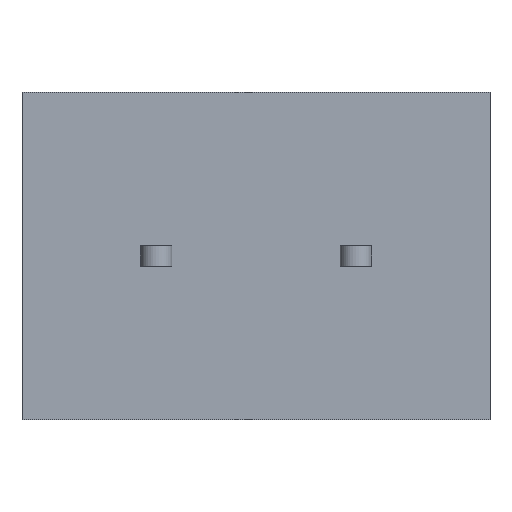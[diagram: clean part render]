
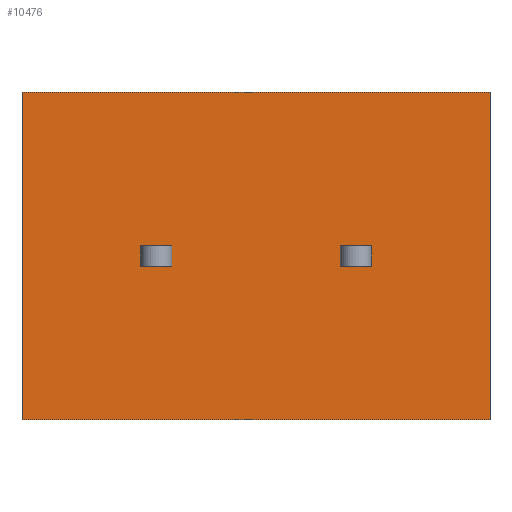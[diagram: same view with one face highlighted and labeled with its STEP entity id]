
A CAD part, front view. The second image highlights one B-rep face of the part: STEP entity #10476.
In plain terms, the highlighted planar face has unit normal (0, -1, 0).
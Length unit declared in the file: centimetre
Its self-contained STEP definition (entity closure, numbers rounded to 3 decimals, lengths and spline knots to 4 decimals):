
#716=VERTEX_POINT('',#13195);
#717=VERTEX_POINT('',#13196);
#720=VERTEX_POINT('',#13204);
#738=VERTEX_POINT('',#13253);
#1248=VERTEX_POINT('',#15308);
#1249=VERTEX_POINT('',#15310);
#1257=VERTEX_POINT('',#15343);
#1258=VERTEX_POINT('',#15344);
#1261=VERTEX_POINT('',#15352);
#1276=VERTEX_POINT('',#15396);
#1611=VERTEX_POINT('',#16897);
#1612=VERTEX_POINT('',#16899);
#1737=VECTOR('',#11164,1.);
#1741=VECTOR('',#11169,1.);
#1759=VECTOR('',#11209,1.);
#1761=VECTOR('',#11212,1.);
#2339=VECTOR('',#12123,1.);
#2355=VECTOR('',#12149,1.);
#2358=VECTOR('',#12155,1.);
#2376=VECTOR('',#12190,1.);
#2379=VECTOR('',#12198,1.);
#2777=VECTOR('',#12737,1.);
#2798=VECTOR('',#12769,1.);
#2799=VECTOR('',#12771,1.);
#2913=LINE('',#13194,#1737);
#2917=LINE('',#13203,#1741);
#2935=LINE('',#13252,#1759);
#2937=LINE('',#13256,#1761);
#3515=LINE('',#15309,#2339);
#3531=LINE('',#15342,#2355);
#3534=LINE('',#15351,#2358);
#3552=LINE('',#15395,#2376);
#3555=LINE('',#15403,#2379);
#3953=LINE('',#16898,#2777);
#3974=LINE('',#16941,#2798);
#3975=LINE('',#16943,#2799);
#4161=EDGE_CURVE('',#716,#717,#2913,.T.);
#4165=EDGE_CURVE('',#720,#716,#2917,.T.);
#4189=EDGE_CURVE('',#738,#720,#2935,.T.);
#4191=EDGE_CURVE('',#717,#738,#2937,.T.);
#4952=EDGE_CURVE('',#1249,#1248,#3515,.T.);
#4969=EDGE_CURVE('',#1257,#1258,#3531,.T.);
#4973=EDGE_CURVE('',#1258,#1261,#3534,.T.);
#4995=EDGE_CURVE('',#1261,#1276,#3552,.T.);
#4999=EDGE_CURVE('',#1276,#1257,#3555,.T.);
#5503=EDGE_CURVE('',#1612,#1611,#3953,.T.);
#5525=EDGE_CURVE('',#1248,#1612,#3974,.T.);
#5526=EDGE_CURVE('',#1249,#1611,#3975,.T.);
#8592=ORIENTED_EDGE('',*,*,#4165,.T.);
#8593=ORIENTED_EDGE('',*,*,#4161,.T.);
#8594=ORIENTED_EDGE('',*,*,#4191,.T.);
#8595=ORIENTED_EDGE('',*,*,#4189,.T.);
#8596=ORIENTED_EDGE('',*,*,#4995,.F.);
#8597=ORIENTED_EDGE('',*,*,#4973,.F.);
#8598=ORIENTED_EDGE('',*,*,#4969,.F.);
#8599=ORIENTED_EDGE('',*,*,#4999,.F.);
#8600=ORIENTED_EDGE('',*,*,#5525,.T.);
#8601=ORIENTED_EDGE('',*,*,#5503,.T.);
#8602=ORIENTED_EDGE('',*,*,#5526,.F.);
#8603=ORIENTED_EDGE('',*,*,#4952,.T.);
#9262=EDGE_LOOP('',(#8592,#8593,#8594,#8595));
#9263=EDGE_LOOP('',(#8596,#8597,#8598,#8599));
#9264=EDGE_LOOP('',(#8600,#8601,#8602,#8603));
#9896=FACE_BOUND('',#9262,.T.);
#9897=FACE_BOUND('',#9263,.T.);
#9898=FACE_BOUND('',#9264,.T.);
#10476=ADVANCED_FACE('',(#9896,#9897,#9898),#10885,.T.);
#10885=PLANE('',#17509);
#11164=DIRECTION('',(0.,0.,-1.));
#11169=DIRECTION('',(1.,0.,0.));
#11209=DIRECTION('',(0.,0.,1.));
#11212=DIRECTION('',(-1.,0.,0.));
#12123=DIRECTION('',(0.,0.,1.));
#12149=DIRECTION('',(1.,0.,0.));
#12155=DIRECTION('',(0.,0.,1.));
#12190=DIRECTION('',(-1.,0.,0.));
#12198=DIRECTION('',(0.,0.,-1.));
#12737=DIRECTION('',(0.,0.,-1.));
#12769=DIRECTION('',(-1.,0.,0.));
#12770=DIRECTION('',(0.,-1.,0.));
#12771=DIRECTION('',(-1.,0.,0.));
#13194=CARTESIAN_POINT('',(-1.154,0.,0.1675));
#13195=CARTESIAN_POINT('',(-1.154,0.,0.04));
#13196=CARTESIAN_POINT('',(-1.154,0.,-0.04));
#13203=CARTESIAN_POINT('',(-1.369,0.,0.04));
#13204=CARTESIAN_POINT('',(-1.274,0.,0.04));
#13252=CARTESIAN_POINT('',(-1.274,0.,0.1675));
#13253=CARTESIAN_POINT('',(-1.274,0.,-0.04));
#13256=CARTESIAN_POINT('',(-1.369,0.,-0.04));
#15308=CARTESIAN_POINT('',(0.06,0.,0.625));
#15309=CARTESIAN_POINT('',(0.06,0.,0.625));
#15310=CARTESIAN_POINT('',(0.06,0.,-0.625));
#15342=CARTESIAN_POINT('',(-0.297,0.,-0.04));
#15343=CARTESIAN_POINT('',(-0.512,0.,-0.04));
#15344=CARTESIAN_POINT('',(-0.392,0.,-0.04));
#15351=CARTESIAN_POINT('',(-0.392,0.,0.1675));
#15352=CARTESIAN_POINT('',(-0.392,0.,0.04));
#15395=CARTESIAN_POINT('',(-0.297,0.,0.04));
#15396=CARTESIAN_POINT('',(-0.512,0.,0.04));
#15403=CARTESIAN_POINT('',(-0.512,0.,0.1675));
#16897=CARTESIAN_POINT('',(-1.726,0.,-0.625));
#16898=CARTESIAN_POINT('',(-1.726,0.,-0.625));
#16899=CARTESIAN_POINT('',(-1.726,0.,0.625));
#16941=CARTESIAN_POINT('',(0.,0.,0.625));
#16942=CARTESIAN_POINT('',(-1.524,0.,0.));
#16943=CARTESIAN_POINT('',(0.,0.,-0.625));
#17509=AXIS2_PLACEMENT_3D('',#16942,#12770,$);
